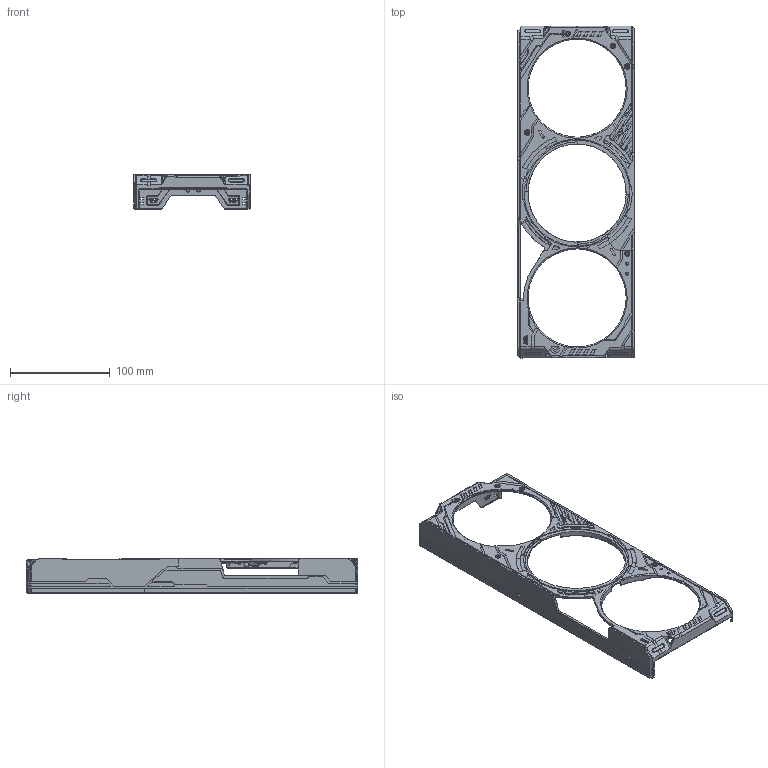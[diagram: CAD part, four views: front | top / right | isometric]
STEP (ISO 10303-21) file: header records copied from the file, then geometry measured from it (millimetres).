
FILE_DESCRIPTION((''),'2;1');
FILE_NAME('F322_COVER','2025-02-18T10:48:25',('Kate'),(''),'CREO PARAMETRIC BY PTC INC, 2021304','CREO PARAMETRIC BY PTC INC, 2021304','');
FILE_SCHEMA(('CONFIG_CONTROL_DESIGN'));
Products named in the file (1): F322_COVER
Bounding box: 116.2 x 332.2 x 34.7 mm (x, y, z)
Volume: 60600.7 mm3; surface area: 70537.8 mm2
Topology: 2 solids, 2 shells, 1404 faces, 3924 edges, 2557 vertices
Faces by surface type: bspline 1404
Entity records: 56538 total; most frequent: CARTESIAN_POINT 24721, ORIENTED_EDGE 7842, DIRECTION 4356, EDGE_CURVE 3921, VERTEX_POINT 2557, VECTOR 2356, LINE 2356, EDGE_LOOP 1504
